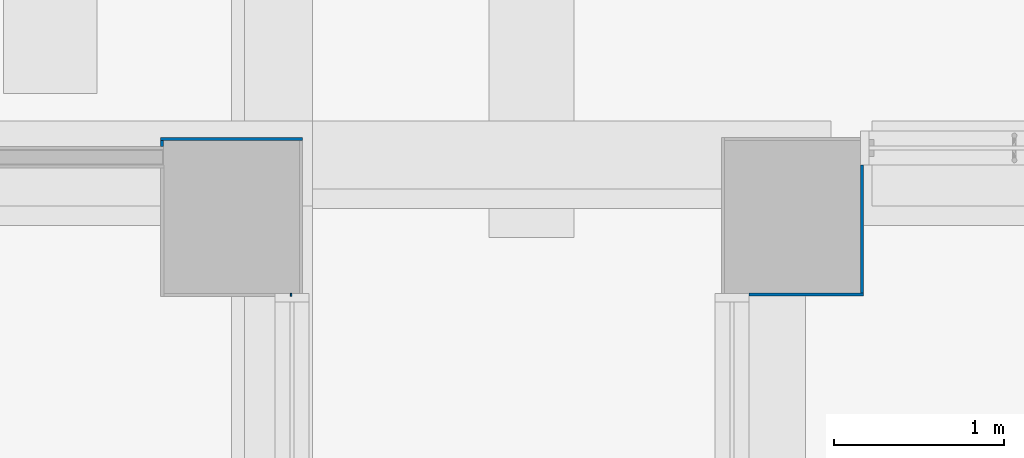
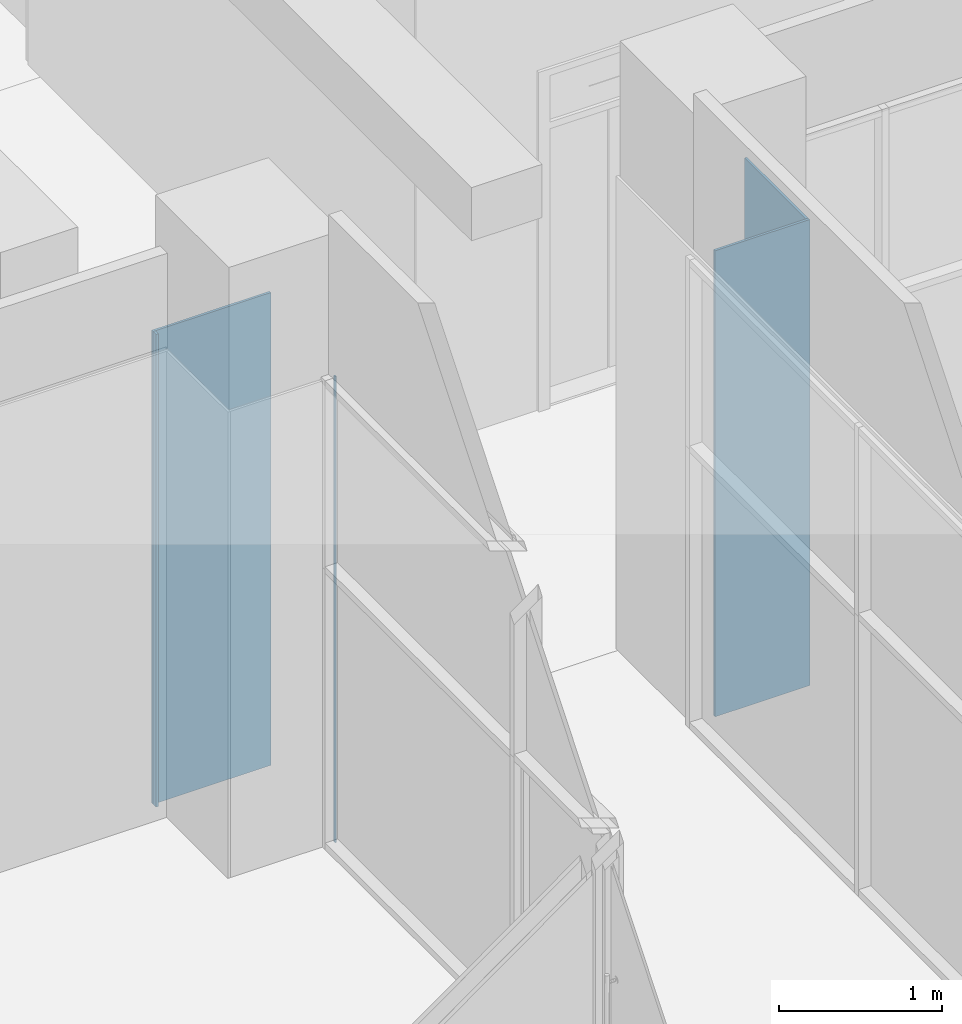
# One storey, part 37 of 100: 5 walls.
"""IFC2X3 building model written with IfcOpenShell, lengths in millimetres."""

from ifc_helpers import new_model, entity, si_unit, converted_unit, derived_unit, direction, frame, frame_2d, origin, place, context, subcontext, project, spatial, rectangle, extrude, material, layer, layer_set, layer_usage, type_object, element, save


model = new_model("IFC2X3")

# Units and contexts
model_context = context("Model", 3, precision=0.01, world=origin(), true_north=direction((6.123031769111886e-17, 1.0)))
body_context = subcontext(model_context, "Body", "Model", "MODEL_VIEW")
ifc_project = project(units=[si_unit("LENGTHUNIT", "METRE", prefix="MILLI"), si_unit("AREAUNIT", "SQUARE_METRE"), si_unit("VOLUMEUNIT", "CUBIC_METRE"), converted_unit("PLANEANGLEUNIT", "DEGREE", entity("IfcRatioMeasure", 0.017453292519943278), si_unit("PLANEANGLEUNIT", "RADIAN"), dimensions=[0, 0, 0, 0, 0, 0, 0]), si_unit("MASSUNIT", "GRAM", prefix="KILO"), derived_unit("MASSDENSITYUNIT", [(si_unit("MASSUNIT", "GRAM", prefix="KILO"), 1), (si_unit("LENGTHUNIT", "METRE"), -3)]), derived_unit("MOMENTOFINERTIAUNIT", [(si_unit("LENGTHUNIT", "METRE"), 4)]), si_unit("TIMEUNIT", "SECOND"), si_unit("FREQUENCYUNIT", "HERTZ"), si_unit("THERMODYNAMICTEMPERATUREUNIT", "DEGREE_CELSIUS"), derived_unit("THERMALTRANSMITTANCEUNIT", [(si_unit("MASSUNIT", "GRAM", prefix="KILO"), 1), (si_unit("THERMODYNAMICTEMPERATUREUNIT", "KELVIN"), -1), (si_unit("TIMEUNIT", "SECOND"), -3)]), derived_unit("VOLUMETRICFLOWRATEUNIT", [(si_unit("LENGTHUNIT", "METRE"), 3), (si_unit("TIMEUNIT", "SECOND"), -1)]), derived_unit("MASSFLOWRATEUNIT", [(si_unit("MASSUNIT", "GRAM", prefix="KILO"), 1), (si_unit("TIMEUNIT", "SECOND"), -1)]), derived_unit("ROTATIONALFREQUENCYUNIT", [(si_unit("TIMEUNIT", "SECOND"), -1)]), si_unit("ELECTRICCURRENTUNIT", "AMPERE"), si_unit("ELECTRICVOLTAGEUNIT", "VOLT"), si_unit("POWERUNIT", "WATT"), si_unit("FORCEUNIT", "NEWTON", prefix="KILO"), si_unit("ILLUMINANCEUNIT", "LUX"), si_unit("LUMINOUSFLUXUNIT", "LUMEN"), si_unit("LUMINOUSINTENSITYUNIT", "CANDELA"), derived_unit("USERDEFINED", [(si_unit("MASSUNIT", "GRAM", prefix="KILO"), -1), (si_unit("LENGTHUNIT", "METRE"), -2), (si_unit("TIMEUNIT", "SECOND"), 3), (si_unit("LUMINOUSFLUXUNIT", "LUMEN"), 1)]), derived_unit("SOUNDPOWERUNIT", [(si_unit("MASSUNIT", "GRAM", prefix="KILO"), 1), (si_unit("LENGTHUNIT", "METRE"), 2), (si_unit("TIMEUNIT", "SECOND"), -3)]), derived_unit("SOUNDPRESSUREUNIT", [(si_unit("MASSUNIT", "GRAM", prefix="KILO"), 1), (si_unit("LENGTHUNIT", "METRE"), -1), (si_unit("TIMEUNIT", "SECOND"), -2)]), derived_unit("LINEARVELOCITYUNIT", [(si_unit("LENGTHUNIT", "METRE"), 1), (si_unit("TIMEUNIT", "SECOND"), -1)]), si_unit("PRESSUREUNIT", "PASCAL"), derived_unit("USERDEFINED", [(si_unit("LENGTHUNIT", "METRE"), -2), (si_unit("MASSUNIT", "GRAM", prefix="KILO"), 1), (si_unit("TIMEUNIT", "SECOND"), -2)]), derived_unit("LINEARFORCEUNIT", [(si_unit("MASSUNIT", "GRAM", prefix="KILO"), 1), (si_unit("LENGTHUNIT", "METRE"), 1), (si_unit("TIMEUNIT", "SECOND"), -2), (si_unit("LENGTHUNIT", "METRE"), -1)]), derived_unit("PLANARFORCEUNIT", [(si_unit("MASSUNIT", "GRAM", prefix="KILO"), 1), (si_unit("LENGTHUNIT", "METRE"), 1), (si_unit("TIMEUNIT", "SECOND"), -2), (si_unit("LENGTHUNIT", "METRE"), -2)])], contexts=[model_context])

# Site, building, storey
site_placement = place(None, frame((-14167.972527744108, -657.2125860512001, 0.0)))
site = spatial("IfcSite", under=ifc_project, at=site_placement, Name="Default", CompositionType="ELEMENT")
building_placement = place(site_placement, origin())
building = spatial("IfcBuilding", under=site, at=building_placement, Name="Sample Building", CompositionType="ELEMENT")
storey_placement = place(building_placement, origin())
storey = spatial("IfcBuildingStorey", under=building, at=storey_placement, Name="지상 1층", CompositionType="ELEMENT", Elevation=0.0)

# Walls
ifc_material_1 = material(Name="WA611-수성페인트 (내부) 벽 (3회)")
ifc_layer_1 = layer(ifc_material_1, 1.0)
ifc_material_2 = material(Name="WA551-시멘트모르타르 (내부) 벽 18mm")
ifc_layer_2 = layer(ifc_material_2, 16.0)
ifc_material_3 = material(Name="WA555-콘크리트면정리 벽 (내부)")
ifc_layer_3 = layer(ifc_material_3, 1.0)
ifc_layer_set = layer_set([ifc_layer_1, ifc_layer_2, ifc_layer_3], Name="기본 벽:A1-32-06A-콘크리트면정리, 시멘트모르타르(미장용), 수성페인트(내부) (18mm)")
ifc_layer_usage_1 = layer_usage(ifc_layer_set, "AXIS2", "POSITIVE", -9.000000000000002)
wall_type = type_object("IfcWallType", Name="기본 벽:A1-32-06A-콘크리트면정리, 시멘트모르타르(미장용), 수성페인트(내부) (18mm)", PredefinedType="STANDARD", material=ifc_layer_set)
wall_1_placement = place(storey_placement, frame((30212.97249113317, 12149.194891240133, 80.0)))
element("IfcWallStandardCase", 1, at=wall_1_placement, inside=storey, type_object=wall_type, material=ifc_layer_usage_1, Name="기본 벽:A1-32-06A-콘크리트면정리, 시멘트모르타르(미장용), 수성페인트(내부) (18mm)", ObjectType="기본 벽:A1-32-06A-콘크리트면정리, 시멘트모르타르(미장용), 수성페인트(내부) (18mm)", context=body_context, shape_type="SweptSolid", body=[
    extrude(rectangle(XDim=671.9999725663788, YDim=18.00000000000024, at=frame_2d((335.9999862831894, -3.197442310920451e-14), x_axis=(-1.0, 0.0))), origin(), (0.0, 0.0, 1.0), 3500.0000000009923),
])
ifc_layer_usage_2 = layer_usage(ifc_layer_set, "AXIS2", "POSITIVE", -9.000000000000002)
wall_2_placement = place(storey_placement, frame((30875.972463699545, 12158.194891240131, 80.0), z_axis=(0.0, 0.0, 1.0), x_axis=(0.0, 1.0, 0.0)))
element("IfcWallStandardCase", 2, at=wall_2_placement, inside=storey, type_object=wall_type, material=ifc_layer_usage_2, Name="기본 벽:A1-32-06A-콘크리트면정리, 시멘트모르타르(미장용), 수성페인트(내부) (18mm)", ObjectType="기본 벽:A1-32-06A-콘크리트면정리, 시멘트모르타르(미장용), 수성페인트(내부) (18mm)", context=body_context, shape_type="SweptSolid", body=[
    extrude(rectangle(XDim=754.0176948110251, YDim=18.00000000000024, at=frame_2d((377.00884740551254, -2.1662671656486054e-12), x_axis=(-1.0, 0.0))), origin(), (0.0, 0.0, 1.0), 3500.0000000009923),
])
ifc_layer_usage_3 = layer_usage(ifc_layer_set, "AXIS2", "NEGATIVE", 9.000000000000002)
wall_3_placement = place(storey_placement, frame((26749.97249113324, 13066.194891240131, 80.0)))
element("IfcWallStandardCase", 3, at=wall_3_placement, inside=storey, type_object=wall_type, material=ifc_layer_usage_3, Name="기본 벽:A1-32-06A-콘크리트면정리, 시멘트모르타르(미장용), 수성페인트(내부) (18mm)", ObjectType="기본 벽:A1-32-06A-콘크리트면정리, 시멘트모르타르(미장용), 수성페인트(내부) (18mm)", context=body_context, shape_type="SweptSolid", body=[
    extrude(rectangle(XDim=836.0000000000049, YDim=18.00000000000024, at=frame_2d((418.00000000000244, 3.161915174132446e-13), x_axis=(-1.0, 0.0))), origin(), (0.0, 0.0, 1.0), 3550.0000000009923),
])
ifc_layer_usage_4 = layer_usage(ifc_layer_set, "AXIS2", "POSITIVE", -9.000000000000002)
wall_4_placement = place(storey_placement, frame((27512.98031454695, 12148.212617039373, 80.0)))
element("IfcWallStandardCase", 4, at=wall_4_placement, inside=storey, type_object=wall_type, material=ifc_layer_usage_4, Name="기본 벽:A1-32-06A-콘크리트면정리, 시멘트모르타르(미장용), 수성페인트(내부) (18mm)", ObjectType="기본 벽:A1-32-06A-콘크리트면정리, 시멘트모르타르(미장용), 수성페인트(내부) (18mm)", context=body_context, shape_type="SweptSolid", body=[
    extrude(rectangle(XDim=9.974827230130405, YDim=18.000000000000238, at=frame_2d((4.987413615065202, 0.0), x_axis=(-1.0, 0.0))), origin(), (0.0, 0.0, 1.0), 3500.0000000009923),
])
ifc_layer_usage_5 = layer_usage(ifc_layer_set, "AXIS2", "NEGATIVE", 9.000000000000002)
wall_5_placement = place(storey_placement, frame((26758.972491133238, 13020.212586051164, 80.0), z_axis=(0.0, 0.0, 1.0), x_axis=(0.0, 1.0, 0.0)))
element("IfcWallStandardCase", 5, at=wall_5_placement, inside=storey, type_object=wall_type, material=ifc_layer_usage_5, Name="기본 벽:A1-32-06A-콘크리트면정리, 시멘트모르타르(미장용), 수성페인트(내부) (18mm)", ObjectType="기본 벽:A1-32-06A-콘크리트면정리, 시멘트모르타르(미장용), 수성페인트(내부) (18mm)", context=body_context, shape_type="SweptSolid", body=[
    extrude(rectangle(XDim=36.98230518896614, YDim=18.00000000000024, at=frame_2d((18.49115259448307, -2.1662671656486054e-12), x_axis=(-1.0, 0.0))), origin(), (0.0, 0.0, 1.0), 3550.0000000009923),
])

save(model, "model.ifc")
